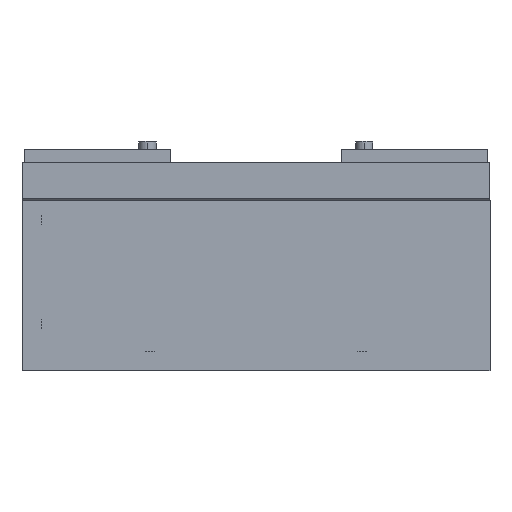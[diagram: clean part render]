
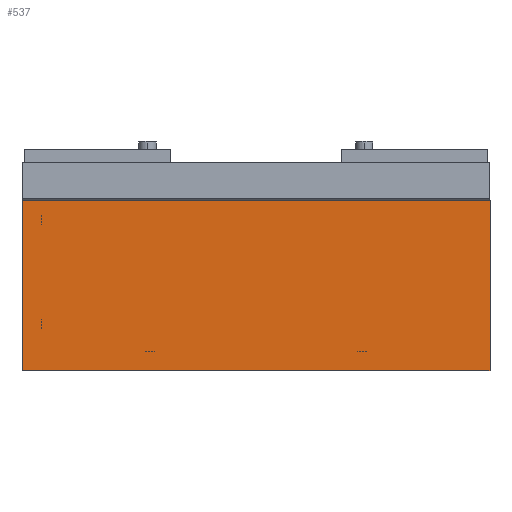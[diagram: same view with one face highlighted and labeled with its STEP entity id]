
A CAD part, front view. The second image highlights one B-rep face of the part: STEP entity #537.
In plain terms, the highlighted planar face has unit normal (0, -1, 0) as drawn and (0, 1, 0) by its records, which use the part's own axes.
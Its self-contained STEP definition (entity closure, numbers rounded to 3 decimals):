
#322 = EDGE_CURVE ( 'NONE', #323, #17535, #1863, .T. ) ;
#323 = VERTEX_POINT ( 'NONE', #1859 ) ;
#417 = EDGE_CURVE ( 'NONE', #418, #323, #2094, .T. ) ;
#418 = VERTEX_POINT ( 'NONE', #2089 ) ;
#535 = EDGE_CURVE ( 'NONE', #17535, #544, #2412, .T. ) ;
#537 = ADVANCED_FACE ( 'NONE', ( #2408 ), #2453, .T. ) ;
#538 = EDGE_LOOP ( 'NONE', ( #539, #540, #541, #542 ) ) ;
#539 = ORIENTED_EDGE ( 'NONE', *, *, #543, .T. ) ;
#540 = ORIENTED_EDGE ( 'NONE', *, *, #417, .T. ) ;
#541 = ORIENTED_EDGE ( 'NONE', *, *, #322, .T. ) ;
#542 = ORIENTED_EDGE ( 'NONE', *, *, #535, .T. ) ;
#543 = EDGE_CURVE ( 'NONE', #544, #418, #2448, .T. ) ;
#544 = VERTEX_POINT ( 'NONE', #2444 ) ;
#1859 = CARTESIAN_POINT ( 'NONE',  ( -55., 72., 20. ) ) ;
#1860 = DIRECTION ( 'NONE',  ( 1., 0., 0. ) ) ;
#1861 = VECTOR ( 'NONE', #1860, 1000. ) ;
#1862 = CARTESIAN_POINT ( 'NONE',  ( -55., 72., 20. ) ) ;
#1863 = LINE ( 'NONE', #1862, #1861 ) ;
#2089 = CARTESIAN_POINT ( 'NONE',  ( -55., 72., -20. ) ) ;
#2091 = DIRECTION ( 'NONE',  ( 0., 0., 1. ) ) ;
#2092 = VECTOR ( 'NONE', #2091, 1000. ) ;
#2093 = CARTESIAN_POINT ( 'NONE',  ( -55., 72., 20. ) ) ;
#2094 = LINE ( 'NONE', #2093, #2092 ) ;
#2408 = FACE_OUTER_BOUND ( 'NONE', #538, .T. ) ;
#2409 = DIRECTION ( 'NONE',  ( 0., 0., -1. ) ) ;
#2410 = VECTOR ( 'NONE', #2409, 1000. ) ;
#2411 = CARTESIAN_POINT ( 'NONE',  ( 55., 72., 20. ) ) ;
#2412 = LINE ( 'NONE', #2411, #2410 ) ;
#2444 = CARTESIAN_POINT ( 'NONE',  ( 55., 72., -20. ) ) ;
#2445 = DIRECTION ( 'NONE',  ( -1., 0., 0. ) ) ;
#2446 = VECTOR ( 'NONE', #2445, 1000. ) ;
#2447 = CARTESIAN_POINT ( 'NONE',  ( -55., 72., -20. ) ) ;
#2448 = LINE ( 'NONE', #2447, #2446 ) ;
#2449 = DIRECTION ( 'NONE',  ( 0., 0., 1. ) ) ;
#2450 = DIRECTION ( 'NONE',  ( 0., 1., 0. ) ) ;
#2451 = CARTESIAN_POINT ( 'NONE',  ( 55., 72., -20. ) ) ;
#2452 = AXIS2_PLACEMENT_3D ( 'NONE', #2451, #2450, #2449 ) ;
#2453 = PLANE ( 'NONE',  #2452 ) ;
#10365 = CARTESIAN_POINT ( 'NONE',  ( 55., 72., 20. ) ) ;
#17535 = VERTEX_POINT ( 'NONE', #10365 ) ;
